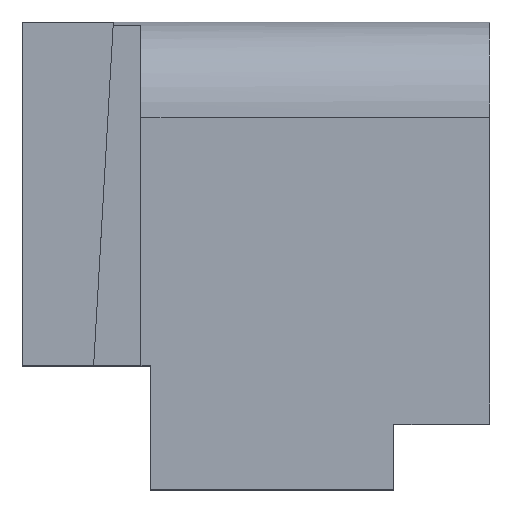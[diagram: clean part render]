
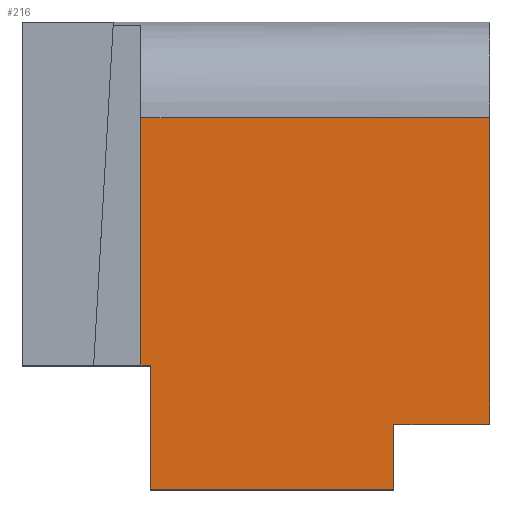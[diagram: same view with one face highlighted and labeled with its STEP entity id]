
A CAD part, top view. The second image highlights one B-rep face of the part: STEP entity #216.
In plain terms, the highlighted planar face has unit normal (0, 0, 1).
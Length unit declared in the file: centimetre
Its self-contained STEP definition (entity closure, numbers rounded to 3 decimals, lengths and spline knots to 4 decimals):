
#34 = CARTESIAN_POINT ( 'NONE',  ( 794.9509, 139.4022, 1000. ) ) ;
#45 = VECTOR ( 'NONE', #72, 100. ) ;
#50 = ORIENTED_EDGE ( 'NONE', *, *, #729, .F. ) ;
#72 = DIRECTION ( 'NONE',  ( 0., 1., 0. ) ) ;
#75 = LINE ( 'NONE', #353, #79 ) ;
#79 = VECTOR ( 'NONE', #626, 100. ) ;
#98 = LINE ( 'NONE', #382, #138 ) ;
#105 = LINE ( 'NONE', #173, #188 ) ;
#129 = VERTEX_POINT ( 'NONE', #845 ) ;
#138 = VECTOR ( 'NONE', #804, 100. ) ;
#159 = CARTESIAN_POINT ( 'NONE',  ( 274.7191, 0., 1000. ) ) ;
#165 = VECTOR ( 'NONE', #442, 100. ) ;
#173 = CARTESIAN_POINT ( 'NONE',  ( 0., 0., 1000. ) ) ;
#185 = CARTESIAN_POINT ( 'NONE',  ( 274.7191, 264.6695, 1000. ) ) ;
#188 = VECTOR ( 'NONE', #444, 100. ) ;
#199 = ORIENTED_EDGE ( 'NONE', *, *, #836, .T. ) ;
#216 = ADVANCED_FACE ( 'NONE', ( #806 ), #868, .T. ) ;
#217 = ORIENTED_EDGE ( 'NONE', *, *, #226, .T. ) ;
#218 = CARTESIAN_POINT ( 'NONE',  ( 794.9509, 139.4022, 1000. ) ) ;
#225 = LINE ( 'NONE', #218, #335 ) ;
#226 = EDGE_CURVE ( 'NONE', #628, #663, #105, .T. ) ;
#244 = CARTESIAN_POINT ( 'NONE',  ( 253.8489, 795.2398, 1000. ) ) ;
#288 = EDGE_LOOP ( 'NONE', ( #741, #682, #835, #199, #354, #894, #50, #217 ) ) ;
#311 = LINE ( 'NONE', #578, #509 ) ;
#335 = VECTOR ( 'NONE', #785, 100. ) ;
#344 = CARTESIAN_POINT ( 'NONE',  ( 253.8489, 0., 1000. ) ) ;
#350 = AXIS2_PLACEMENT_3D ( 'NONE', #515, #798, #664 ) ;
#353 = CARTESIAN_POINT ( 'NONE',  ( 274.7191, 0., 1000. ) ) ;
#354 = ORIENTED_EDGE ( 'NONE', *, *, #491, .F. ) ;
#382 = CARTESIAN_POINT ( 'NONE',  ( 0., 795.2398, 1000. ) ) ;
#414 = LINE ( 'NONE', #487, #45 ) ;
#423 = VERTEX_POINT ( 'NONE', #185 ) ;
#432 = DIRECTION ( 'NONE',  ( 0., -1., 0. ) ) ;
#442 = DIRECTION ( 'NONE',  ( -1., 0., 0. ) ) ;
#444 = DIRECTION ( 'NONE',  ( 1., 0., 0. ) ) ;
#466 = DIRECTION ( 'NONE',  ( 0., 1., 0. ) ) ;
#487 = CARTESIAN_POINT ( 'NONE',  ( 1000., 1000., 1000. ) ) ;
#491 = EDGE_CURVE ( 'NONE', #827, #893, #539, .T. ) ;
#509 = VECTOR ( 'NONE', #432, 100. ) ;
#515 = CARTESIAN_POINT ( 'NONE',  ( 0., 0., 1000. ) ) ;
#518 = CARTESIAN_POINT ( 'NONE',  ( 0., 264.6695, 1000. ) ) ;
#539 = LINE ( 'NONE', #344, #623 ) ;
#578 = CARTESIAN_POINT ( 'NONE',  ( 794.9509, 0., 1000. ) ) ;
#621 = EDGE_CURVE ( 'NONE', #129, #755, #225, .T. ) ;
#623 = VECTOR ( 'NONE', #466, 100. ) ;
#626 = DIRECTION ( 'NONE',  ( 0., 1., 0. ) ) ;
#628 = VERTEX_POINT ( 'NONE', #159 ) ;
#640 = CARTESIAN_POINT ( 'NONE',  ( 794.9509, 0., 1000. ) ) ;
#663 = VERTEX_POINT ( 'NONE', #640 ) ;
#664 = DIRECTION ( 'NONE',  ( 1., 0., 0. ) ) ;
#682 = ORIENTED_EDGE ( 'NONE', *, *, #621, .F. ) ;
#697 = CARTESIAN_POINT ( 'NONE',  ( 1000., 795.2398, 1000. ) ) ;
#698 = EDGE_CURVE ( 'NONE', #129, #706, #414, .T. ) ;
#706 = VERTEX_POINT ( 'NONE', #697 ) ;
#729 = EDGE_CURVE ( 'NONE', #628, #423, #75, .T. ) ;
#740 = CARTESIAN_POINT ( 'NONE',  ( 253.8489, 264.6695, 1000. ) ) ;
#741 = ORIENTED_EDGE ( 'NONE', *, *, #782, .F. ) ;
#755 = VERTEX_POINT ( 'NONE', #34 ) ;
#782 = EDGE_CURVE ( 'NONE', #755, #663, #311, .T. ) ;
#785 = DIRECTION ( 'NONE',  ( -1., 0., 0. ) ) ;
#798 = DIRECTION ( 'NONE',  ( 0., 0., 1. ) ) ;
#804 = DIRECTION ( 'NONE',  ( -1., 0., 0. ) ) ;
#806 = FACE_OUTER_BOUND ( 'NONE', #288, .T. ) ;
#827 = VERTEX_POINT ( 'NONE', #740 ) ;
#835 = ORIENTED_EDGE ( 'NONE', *, *, #698, .T. ) ;
#836 = EDGE_CURVE ( 'NONE', #706, #893, #98, .T. ) ;
#845 = CARTESIAN_POINT ( 'NONE',  ( 1000., 139.4022, 1000. ) ) ;
#868 = PLANE ( 'NONE',  #350 ) ;
#873 = LINE ( 'NONE', #518, #165 ) ;
#887 = EDGE_CURVE ( 'NONE', #423, #827, #873, .T. ) ;
#893 = VERTEX_POINT ( 'NONE', #244 ) ;
#894 = ORIENTED_EDGE ( 'NONE', *, *, #887, .F. ) ;
